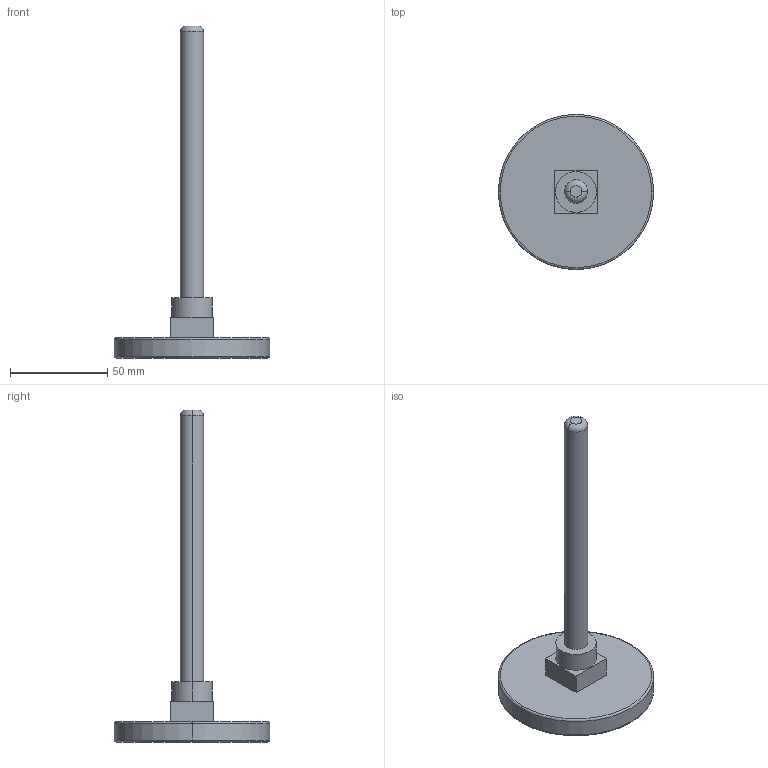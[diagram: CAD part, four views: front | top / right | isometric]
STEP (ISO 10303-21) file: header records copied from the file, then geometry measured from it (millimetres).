
FILE_DESCRIPTION (( 'STEP AP214' ), '1' );
FILE_NAME ('Termometr_bimetaliczny_x_0_3D_AFRISO.STEP', '2022-12-16T13:58:15', ( '' ), ( '' ), 'SwSTEP 2.0', 'SolidWorks 2022', '' );
FILE_SCHEMA (( 'AUTOMOTIVE_DESIGN' ));
Length unit declared in the file: millimetre
Products named in the file (1): Termometr_bimetaliczny_x_0_3D_AFRISO
Bounding box: 80 x 80 x 171 mm (x, y, z)
Volume: 76986 mm3; surface area: 19284.5 mm2
Topology: 1 solids, 1 shells, 21 faces, 42 edges, 26 vertices
Faces by surface type: plane 9, torus 6, cylinder 6
Entity records: 586 total; most frequent: DIRECTION 110, CARTESIAN_POINT 90, ORIENTED_EDGE 84, AXIS2_PLACEMENT_3D 46, EDGE_CURVE 42, VERTEX_POINT 26, CIRCLE 24, EDGE_LOOP 24
